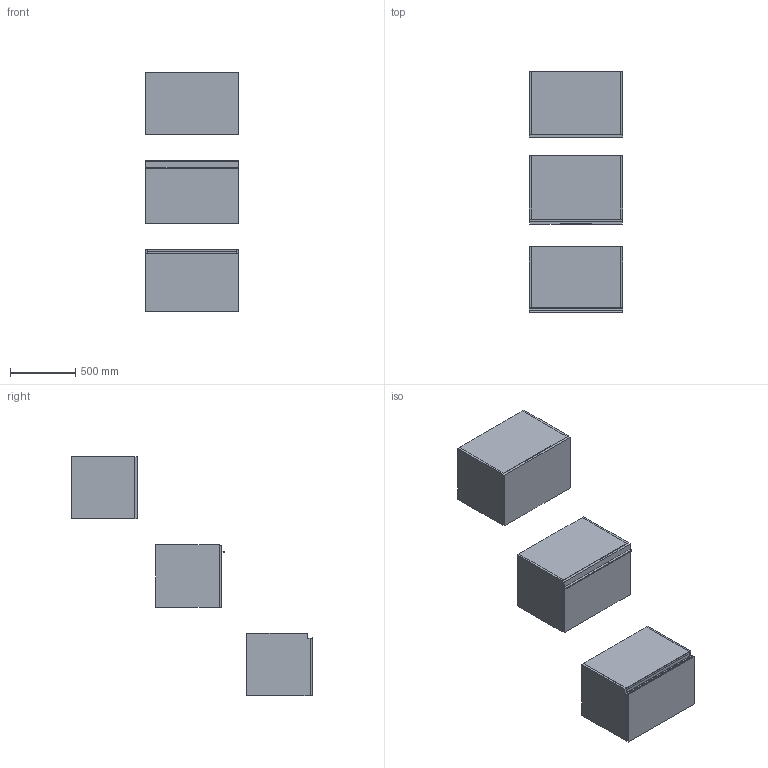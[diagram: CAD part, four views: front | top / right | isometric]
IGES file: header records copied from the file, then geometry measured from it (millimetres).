
Start section: Data from Parasolid IGES Translator 19.0.9, Copyright(c) 2006 Siemens PL M Software. All Rights Reserved.
Global section: file name: noorth-SI-H 48 D 51 W 72_8566.igs; native system: By Siemens PLM Incorporated; preprocessor: XPlus GENERIC/IGES 19.0.9; author: Noname; organization: Noname; date: 20200601.113149; units: metre
Bounding box: 720 x 1857.1 x 1840.01 mm (x, y, z)
Volume: 76288842 mm3; surface area: 11340679 mm2
Topology: 20 solids, 20 shells, 178 faces, 382 edges, 234 vertices
Faces by surface type: plane 134, extrusion 16, bspline 16, cylinder 12
